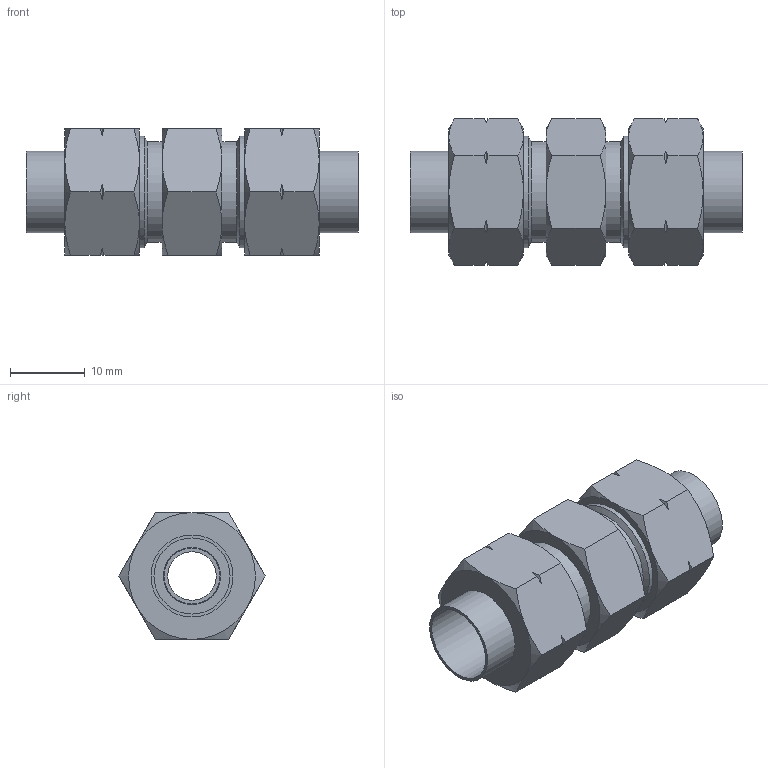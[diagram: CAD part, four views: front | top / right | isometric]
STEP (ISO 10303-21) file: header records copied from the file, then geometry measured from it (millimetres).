
FILE_DESCRIPTION((''),'2;1');
FILE_NAME('D:\INVENTOR\[New Inventor]\CDC Products 3D Ass''y\Two-Touch Fittings\Metric\CUC\CUC10-8.stp','2009-02-25T12:25:22',('Microsoft'),(''),'Autodesk Inventor 2008','Autodesk Inventor 2008','');
FILE_SCHEMA(('AUTOMOTIVE_DESIGN { 1 0 10303 214 1 1 1 1 }'));
Length unit declared in the file: millimetre
Products named in the file (1): CUC10-8
Bounding box: 44.54 x 19.63 x 17 mm (x, y, z)
Volume: 6037.7 mm3; surface area: 5336.7 mm2
Topology: 1 solids, 1 shells, 105 faces, 237 edges, 144 vertices
Faces by surface type: bspline 50, cone 31, plane 18, cylinder 5, torus 1
Full cylindrical faces by diameter (mm): 7.7 x1, 10.2 x1, 11 x1, 13.5 x1, 15 x1
Entity records: 3243 total; most frequent: CARTESIAN_POINT 1421, ORIENTED_EDGE 444, DIRECTION 286, EDGE_CURVE 222, VERTEX_POINT 144, EDGE_LOOP 132, AXIS2_PLACEMENT_3D 128, FACE_OUTER_BOUND 105
